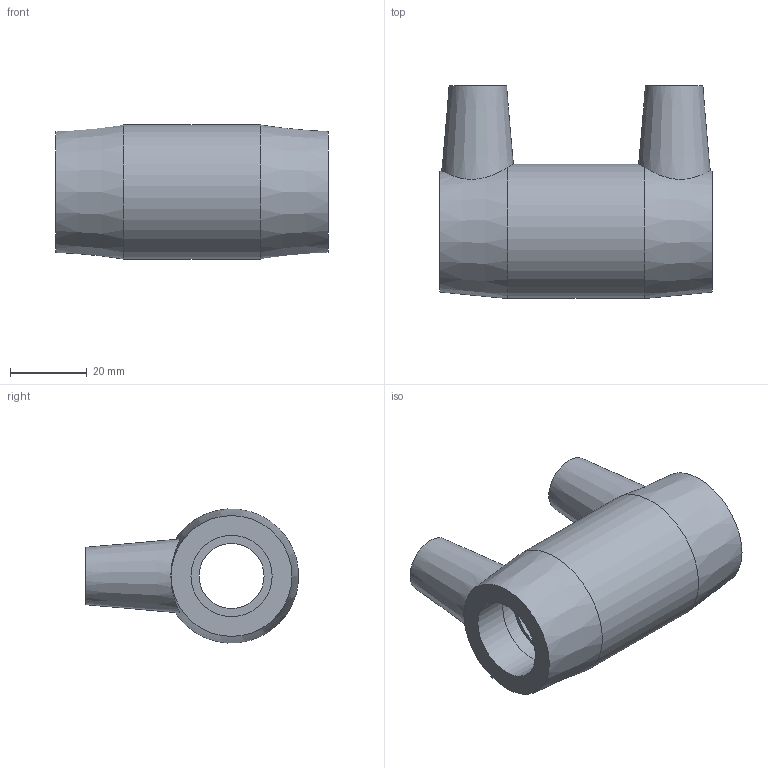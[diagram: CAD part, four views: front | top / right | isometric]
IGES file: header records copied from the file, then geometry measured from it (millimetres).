
Global section: file name: 5901U004005.ipt; native system: Autodesk Inventor 2019; preprocessor: unknown; author: KIM; date: 20210830.100933; units: inch
Bounding box: 71.12 x 55.56 x 34.98 mm (x, y, z)
Volume: 48207.6 mm3; surface area: 17055.1 mm2
Topology: 1 solids, 1 shells, 30 faces, 66 edges, 46 vertices
Faces by surface type: plane 12, revolution 11, cone 4, cylinder 3
Full cylindrical faces by diameter (mm): 4 x2, 35.052 x1
